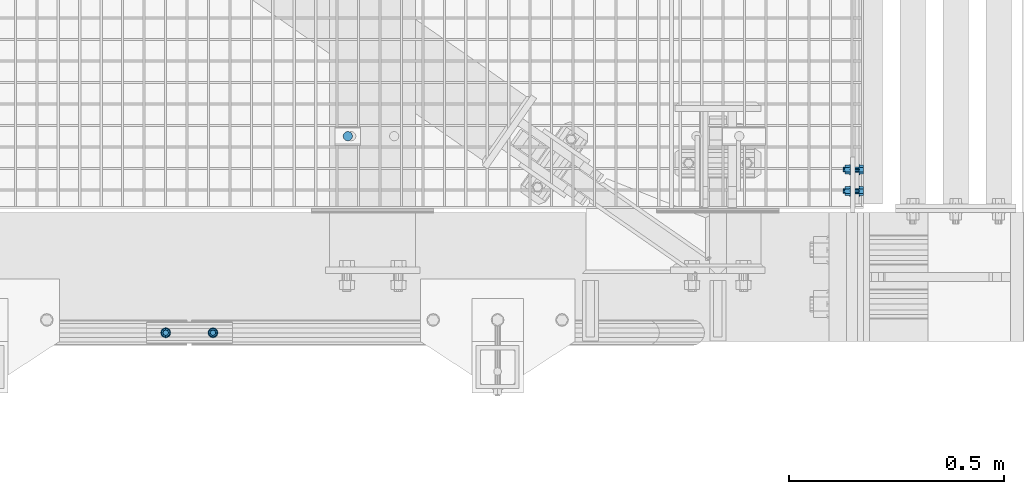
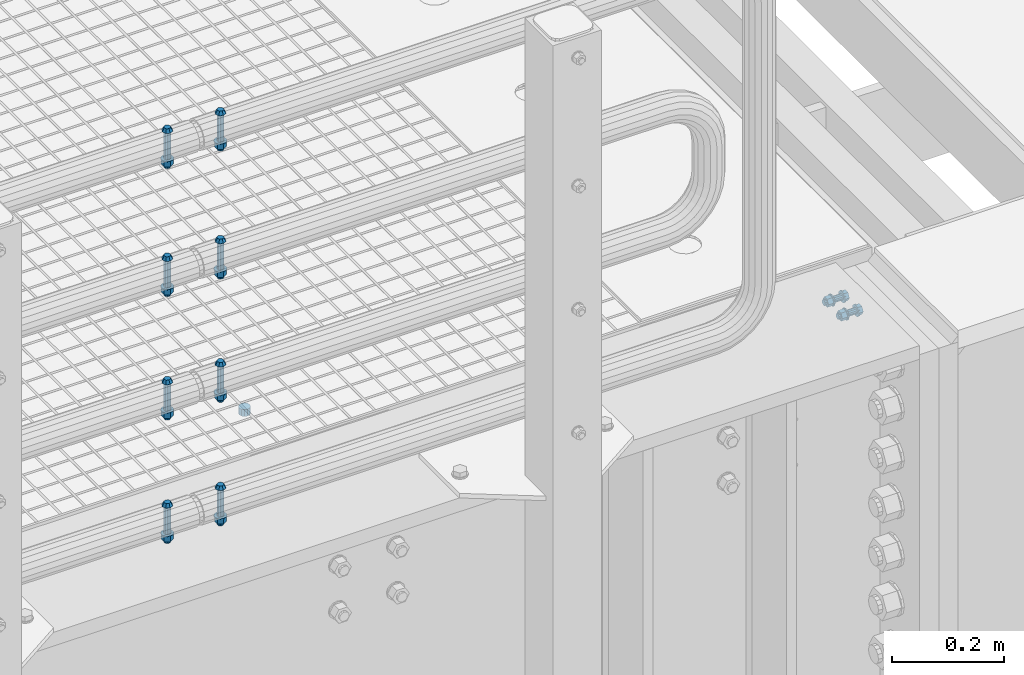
# One storey, part 103 of 1530: 10 mechanical fasteners.
"""IFC2X3 building model written with IfcOpenShell, lengths in millimetres."""

from ifc_helpers import new_model, si_unit, frame, origin_with_axes, place, context, subcontext, project, spatial, faceted_brep, source, transform, mapped, material, type_object, element, save


model = new_model("IFC2X3")

# Units and contexts
model_context = context("Model", 3, precision=1e-05, world=origin_with_axes())
body_context = subcontext(model_context, "Body", "Model", "MODEL_VIEW")
ifc_project = project(units=[si_unit("LENGTHUNIT", "METRE", prefix="MILLI"), si_unit("AREAUNIT", "SQUARE_METRE"), si_unit("VOLUMEUNIT", "CUBIC_METRE"), si_unit("MASSUNIT", "GRAM", prefix="KILO"), si_unit("TIMEUNIT", "SECOND"), si_unit("PLANEANGLEUNIT", "RADIAN"), si_unit("SOLIDANGLEUNIT", "STERADIAN"), si_unit("THERMODYNAMICTEMPERATUREUNIT", "DEGREE_CELSIUS"), si_unit("LUMINOUSINTENSITYUNIT", "LUMEN")], contexts=[model_context])

# Site, building, storey
site_placement = place(None, origin_with_axes())
site = spatial("IfcSite", under=ifc_project, at=site_placement, Name="Brattvåg", CompositionType="ELEMENT")
building_placement = place(site_placement, origin_with_axes())
building = spatial("IfcBuilding", under=site, at=building_placement, Name="Undefined", CompositionType="ELEMENT")
storey_placement = place(building_placement, origin_with_axes())
storey = spatial("IfcBuildingStorey", under=building, at=storey_placement, Name="Undefined", CompositionType="ELEMENT", Elevation=0.0)

# Mechanical fasteners
ifc_material = material(Name="8")
mechanical_fastener_type = type_object("IfcMechanicalFastenerType", Name="Bolt assembly")
shared_shape_1 = source(origin_with_axes(), body_context, "Body", "Brep", [
    faceted_brep([(10.3923048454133, -9.99999999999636, 0.0), (5.19615242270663, -9.99999999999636, 9.0), (-5.19615242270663, -9.99999999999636, 9.0), (-10.3923048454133, -9.99999999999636, 1.27269028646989e-15), (-5.19615242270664, -9.99999999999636, -9.0), (5.19615242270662, -9.99999999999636, -9.0), (5.19615242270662, -2.49999999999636, -9.0), (-5.19615242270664, -2.49999999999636, -9.0), (-10.3923048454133, -2.49999999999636, 1.27269028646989e-15), (-5.19615242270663, -2.49999999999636, 9.0), (5.19615242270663, -2.49999999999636, 9.0), (10.3923048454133, -2.49999999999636, 0.0), (6.0, -2.49999999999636, 0.0), (5.19615242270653, -2.49999999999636, 3.00000000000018), (2.99999999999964, -2.49999999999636, 5.19615242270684), (-6.21801588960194e-13, -2.49999999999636, 6.0), (-3.00000000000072, -2.49999999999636, 5.19615242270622), (-5.19615242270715, -2.49999999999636, 2.9999999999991), (-6.0, -2.49999999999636, -1.24360317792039e-12), (-5.19615242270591, -2.49999999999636, -3.00000000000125), (-2.99999999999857, -2.49999999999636, -5.19615242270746), (1.85874342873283e-12, -2.49999999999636, -6.0), (3.00000000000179, -2.49999999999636, -5.1961524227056), (5.19615242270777, -2.49999999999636, -2.99999999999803), (5.19615242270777, 37.5000000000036, -2.99999999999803), (3.00000000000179, 37.5000000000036, -5.1961524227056), (1.85874342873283e-12, 37.5000000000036, -6.0), (-2.99999999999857, 37.5000000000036, -5.19615242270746), (-5.19615242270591, 37.5000000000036, -3.00000000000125), (-6.0, 37.5000000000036, -1.24360317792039e-12), (-5.19615242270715, 37.5000000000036, 2.9999999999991), (-3.00000000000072, 37.5000000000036, 5.19615242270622), (-6.21801588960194e-13, 37.5000000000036, 6.0), (2.99999999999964, 37.5000000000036, 5.19615242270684), (5.19615242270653, 37.5000000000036, 3.00000000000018), (6.0, 37.5000000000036, 0.0), (12.0, -2.49999999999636, 0.0), (10.3923048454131, -2.49999999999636, 6.00000000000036), (5.99999999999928, -2.49999999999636, 10.3923048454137), (-1.24360317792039e-12, -2.49999999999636, 12.0), (-6.00000000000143, -2.49999999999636, 10.3923048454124), (-10.3923048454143, -2.49999999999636, 5.99999999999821), (-12.0, -2.49999999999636, -2.48720635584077e-12), (-10.3923048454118, -2.49999999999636, -6.00000000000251), (-5.99999999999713, -2.49999999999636, -10.3923048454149), (3.71748685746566e-12, -2.49999999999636, -12.0), (6.00000000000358, -2.49999999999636, -10.3923048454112), (10.3923048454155, -2.49999999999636, -5.99999999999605), (10.3923048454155, 3.63797880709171e-12, -5.99999999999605), (6.00000000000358, 3.63797880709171e-12, -10.3923048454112), (3.71748685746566e-12, 3.63797880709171e-12, -12.0), (-5.99999999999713, 3.63797880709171e-12, -10.3923048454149), (-10.3923048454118, 3.63797880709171e-12, -6.00000000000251), (-12.0, 3.63797880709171e-12, -2.48720635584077e-12), (-10.3923048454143, 3.63797880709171e-12, 5.99999999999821), (-6.00000000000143, 3.63797880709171e-12, 10.3923048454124), (-1.24360317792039e-12, 3.63797880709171e-12, 12.0), (5.99999999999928, 3.63797880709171e-12, 10.3923048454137), (10.3923048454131, 3.63797880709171e-12, 6.00000000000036), (12.0, 3.63797880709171e-12, 0.0), (12.0, 19.9943847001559, 0.0), (10.3923048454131, 19.9943847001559, 6.00000000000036), (5.99999999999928, 19.9943847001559, 10.3923048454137), (-1.24360317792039e-12, 19.9943847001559, 12.0), (-6.00000000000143, 19.9943847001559, 10.3923048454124), (-10.3923048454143, 19.9943847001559, 5.99999999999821), (-12.0, 19.9943847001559, -2.48720635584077e-12), (-10.3923048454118, 19.9943847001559, -6.00000000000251), (-5.99999999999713, 19.9943847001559, -10.3923048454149), (3.71748685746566e-12, 19.9943847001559, -12.0), (6.00000000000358, 19.9943847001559, -10.3923048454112), (10.3923048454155, 19.9943847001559, -5.99999999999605), (10.3923048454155, 22.4943847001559, -5.99999999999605), (6.00000000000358, 22.4943847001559, -10.3923048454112), (3.71748685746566e-12, 22.4943847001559, -12.0), (-5.99999999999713, 22.4943847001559, -10.3923048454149), (-10.3923048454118, 22.4943847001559, -6.00000000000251), (-12.0, 22.4943847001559, -2.48720635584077e-12), (-10.3923048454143, 22.4943847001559, 5.99999999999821), (-6.00000000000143, 22.4943847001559, 10.3923048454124), (-1.24360317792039e-12, 22.4943847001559, 12.0), (5.99999999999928, 22.4943847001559, 10.3923048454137), (10.3923048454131, 22.4943847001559, 6.00000000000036), (12.0, 22.4943847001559, 0.0), (10.3923048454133, 22.4943847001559, 0.0), (5.19615242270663, 22.4943847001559, 9.0), (-5.19615242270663, 22.4943847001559, 9.0), (-10.3923048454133, 22.4943847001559, 1.27269028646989e-15), (-5.19615242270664, 22.4943847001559, -9.0), (5.19615242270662, 22.4943847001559, -9.0), (5.19615242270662, 33.2943848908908, -9.0), (-5.19615242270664, 33.2943848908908, -9.0), (-10.3923048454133, 33.2943848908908, 1.27269028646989e-15), (-5.19615242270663, 33.2943848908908, 9.0), (5.19615242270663, 33.2943848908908, 9.0), (10.3923048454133, 33.2943848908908, 0.0)], [[[0, 1, 2, 3, 4, 5]], [[6, 7, 8, 9, 10, 11]], [[0, 11, 10, 1]], [[1, 10, 9, 2]], [[2, 9, 8, 3]], [[3, 8, 7, 4]], [[4, 7, 6, 5]], [[5, 6, 11, 0]], [[12, 13, 14, 15, 16, 17, 18, 19, 20, 21, 22, 23]], [[24, 25, 26, 27, 28, 29, 30, 31, 32, 33, 34, 35]], [[12, 35, 34, 13]], [[13, 34, 33, 14]], [[14, 33, 32, 15]], [[15, 32, 31, 16]], [[16, 31, 30, 17]], [[17, 30, 29, 18]], [[18, 29, 28, 19]], [[19, 28, 27, 20]], [[20, 27, 26, 21]], [[21, 26, 25, 22]], [[22, 25, 24, 23]], [[23, 24, 35, 12]], [[36, 37, 38, 39, 40, 41, 42, 43, 44, 45, 46, 47]], [[48, 49, 50, 51, 52, 53, 54, 55, 56, 57, 58, 59]], [[36, 59, 58, 37]], [[37, 58, 57, 38]], [[38, 57, 56, 39]], [[39, 56, 55, 40]], [[40, 55, 54, 41]], [[41, 54, 53, 42]], [[42, 53, 52, 43]], [[43, 52, 51, 44]], [[44, 51, 50, 45]], [[45, 50, 49, 46]], [[46, 49, 48, 47]], [[47, 48, 59, 36]], [[60, 61, 62, 63, 64, 65, 66, 67, 68, 69, 70, 71]], [[72, 73, 74, 75, 76, 77, 78, 79, 80, 81, 82, 83]], [[60, 83, 82, 61]], [[61, 82, 81, 62]], [[62, 81, 80, 63]], [[63, 80, 79, 64]], [[64, 79, 78, 65]], [[65, 78, 77, 66]], [[66, 77, 76, 67]], [[67, 76, 75, 68]], [[68, 75, 74, 69]], [[69, 74, 73, 70]], [[70, 73, 72, 71]], [[71, 72, 83, 60]], [[84, 85, 86, 87, 88, 89]], [[90, 91, 92, 93, 94, 95]], [[84, 95, 94, 85]], [[85, 94, 93, 86]], [[86, 93, 92, 87]], [[87, 92, 91, 88]], [[88, 91, 90, 89]], [[89, 90, 95, 84]]]),
    faceted_brep([(6.5, 0.100000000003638, 0.0), (5.62916512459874, 0.100000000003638, 3.25000000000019), (3.24999999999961, 0.100000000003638, 5.62916512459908), (-6.7361838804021e-13, 0.100000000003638, 6.5), (-3.25000000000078, 0.100000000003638, 5.6291651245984), (-5.62916512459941, 0.100000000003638, 3.24999999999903), (-6.5, 0.100000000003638, -1.34723677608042e-12), (-5.62916512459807, 0.100000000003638, -3.25000000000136), (-3.24999999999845, 0.100000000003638, -5.62916512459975), (2.01363871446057e-12, 0.100000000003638, -6.5), (3.25000000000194, 0.100000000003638, -5.62916512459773), (5.62916512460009, 0.100000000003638, -3.24999999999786), (5.62916512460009, 10.1000000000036, -3.24999999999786), (3.25000000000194, 10.1000000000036, -5.62916512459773), (2.01363871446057e-12, 10.1000000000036, -6.5), (-3.24999999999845, 10.1000000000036, -5.62916512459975), (-5.62916512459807, 10.1000000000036, -3.25000000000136), (-6.5, 10.1000000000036, -1.34723677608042e-12), (-5.62916512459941, 10.1000000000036, 3.24999999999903), (-3.25000000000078, 10.1000000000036, 5.6291651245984), (-6.7361838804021e-13, 10.1000000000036, 6.5), (3.24999999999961, 10.1000000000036, 5.62916512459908), (5.62916512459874, 10.1000000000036, 3.25000000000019), (6.5, 10.1000000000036, 0.0), (6.5, 9.89438470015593, 0.0), (5.62916512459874, 9.89438470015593, 3.25000000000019), (3.24999999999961, 9.89438470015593, 5.62916512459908), (-6.7361838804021e-13, 9.89438470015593, 6.5), (-3.25000000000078, 9.89438470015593, 5.6291651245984), (-5.62916512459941, 9.89438470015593, 3.24999999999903), (-6.5, 9.89438470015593, -1.34723677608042e-12), (-5.62916512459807, 9.89438470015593, -3.25000000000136), (-3.24999999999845, 9.89438470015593, -5.62916512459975), (2.01363871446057e-12, 9.89438470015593, -6.5), (3.25000000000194, 9.89438470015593, -5.62916512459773), (5.62916512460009, 9.89438470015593, -3.24999999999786), (5.62916512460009, 19.9943847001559, -3.24999999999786), (3.25000000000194, 19.9943847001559, -5.62916512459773), (2.01363871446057e-12, 19.9943847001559, -6.5), (-3.24999999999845, 19.9943847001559, -5.62916512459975), (-5.62916512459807, 19.9943847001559, -3.25000000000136), (-6.5, 19.9943847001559, -1.34723677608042e-12), (-5.62916512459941, 19.9943847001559, 3.24999999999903), (-3.25000000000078, 19.9943847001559, 5.6291651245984), (-6.7361838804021e-13, 19.9943847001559, 6.5), (3.24999999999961, 19.9943847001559, 5.62916512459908), (5.62916512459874, 19.9943847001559, 3.25000000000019), (6.5, 19.9943847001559, 0.0)], [[[0, 1, 2, 3, 4, 5, 6, 7, 8, 9, 10, 11]], [[12, 13, 14, 15, 16, 17, 18, 19, 20, 21, 22, 23]], [[0, 23, 22, 1]], [[1, 22, 21, 2]], [[2, 21, 20, 3]], [[3, 20, 19, 4]], [[4, 19, 18, 5]], [[5, 18, 17, 6]], [[6, 17, 16, 7]], [[7, 16, 15, 8]], [[8, 15, 14, 9]], [[9, 14, 13, 10]], [[10, 13, 12, 11]], [[11, 12, 23, 0]], [[24, 25, 26, 27, 28, 29, 30, 31, 32, 33, 34, 35]], [[36, 37, 38, 39, 40, 41, 42, 43, 44, 45, 46, 47]], [[24, 47, 46, 25]], [[25, 46, 45, 26]], [[26, 45, 44, 27]], [[27, 44, 43, 28]], [[28, 43, 42, 29]], [[29, 42, 41, 30]], [[30, 41, 40, 31]], [[31, 40, 39, 32]], [[32, 39, 38, 33]], [[33, 38, 37, 34]], [[34, 37, 36, 35]], [[35, 36, 47, 24]]]),
])
mechanical_fastener_1_placement = place(storey_placement, frame((16886.9983721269, 199.999904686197, -160.000094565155), z_axis=(0.0, 0.0, 1.0), x_axis=(0.0, 1.0, 0.0)))
element("IfcMechanicalFastener", 1, at=mechanical_fastener_1_placement, inside=storey, type_object=mechanical_fastener_type, material=ifc_material, Name="Bolt assembly", NominalDiameter=12.0, NominalLength=40.0, context=body_context, shape_type="MappedRepresentation", body=[
    mapped(shared_shape_1, transform((0.0, 0.0, 0.0))),
    mapped(shared_shape_1, transform((50.0, 0.0, 0.0))),
])
shared_shape_2 = source(origin_with_axes(), body_context, "Body", "Brep", [
    faceted_brep([(11.0, -4.99999999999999, 0.0), (9.52627944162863, -4.99999999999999, 5.50000000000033), (5.49999999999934, -4.99999999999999, 9.5262794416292), (-1.13996957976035e-12, -4.99999999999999, 11.0), (-5.50000000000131, -4.99999999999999, 9.52627944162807), (-9.52627944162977, -4.99999999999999, 5.49999999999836), (-11.0, -4.99999999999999, -2.27993915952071e-12), (-9.5262794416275, -4.99999999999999, -5.5000000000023), (-5.49999999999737, -4.99999999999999, -9.52627944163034), (3.40769628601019e-12, -4.99999999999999, -11.0), (5.50000000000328, -4.99999999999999, -9.52627944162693), (9.52627944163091, -4.99999999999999, -5.49999999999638), (9.52627944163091, 10.1, -5.49999999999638), (5.50000000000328, 10.1, -9.52627944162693), (3.40769628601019e-12, 10.1, -11.0), (-5.49999999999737, 10.1, -9.52627944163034), (-9.5262794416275, 10.1, -5.5000000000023), (-11.0, 10.1, -2.27993915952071e-12), (-9.52627944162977, 10.1, 5.49999999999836), (-5.50000000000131, 10.1, 9.52627944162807), (-1.13996957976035e-12, 10.1, 11.0), (5.49999999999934, 10.1, 9.5262794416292), (9.52627944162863, 10.1, 5.50000000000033), (11.0, 10.1, 0.0)], [[[0, 1, 2, 3, 4, 5, 6, 7, 8, 9, 10, 11]], [[12, 13, 14, 15, 16, 17, 18, 19, 20, 21, 22, 23]], [[0, 23, 22, 1]], [[1, 22, 21, 2]], [[2, 21, 20, 3]], [[3, 20, 19, 4]], [[4, 19, 18, 5]], [[5, 18, 17, 6]], [[6, 17, 16, 7]], [[7, 16, 15, 8]], [[8, 15, 14, 9]], [[9, 14, 13, 10]], [[10, 13, 12, 11]], [[11, 12, 23, 0]]]),
])
mechanical_fastener_2_placement = place(storey_placement, frame((15696.2016601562, 327.999641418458, -35.0), z_axis=(0.0, -1.0, 0.0), x_axis=(-1.0, 1.99999855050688e-09, 0.0)))
element("IfcMechanicalFastener", 2, at=mechanical_fastener_2_placement, inside=storey, type_object=mechanical_fastener_type, material=ifc_material, Name="Bolt assembly", NominalDiameter=20.0, NominalLength=15.0, context=body_context, shape_type="MappedRepresentation", body=[
    mapped(shared_shape_2, transform((0.0, 0.0, 0.0))),
])
shared_shape_3 = source(origin_with_axes(), body_context, "Body", "Brep", [
    faceted_brep([(6.49435320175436, -7.79994685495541, 0.0), (4.59220118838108, -7.79994685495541, 4.59220118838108), (3.97664443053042e-16, -7.79994685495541, 6.49435320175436), (-4.59220118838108, -7.79994685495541, 4.59220118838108), (-6.49435320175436, -7.79994685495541, 7.95328886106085e-16), (-4.59220118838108, -7.79994685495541, -4.59220118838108), (-1.19299332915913e-15, -7.79994685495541, -6.49435320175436), (4.59220118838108, -7.79994685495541, -4.59220118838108), (7.34846922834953, -0.299946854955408, -7.34846922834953), (-1.90903542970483e-15, -0.299946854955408, -10.3923048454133), (-7.34846922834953, -0.299946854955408, -7.34846922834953), (-10.3923048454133, -0.299946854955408, 1.27269028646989e-15), (-7.34846922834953, -0.299946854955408, 7.34846922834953), (6.36345143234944e-16, -0.299946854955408, 10.3923048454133), (7.34846922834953, -0.299946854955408, 7.34846922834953), (10.3923048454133, -0.299946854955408, 0.0), (6.0, -0.299946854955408, 0.0), (5.19615242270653, -0.299946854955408, 3.00000000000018), (2.99999999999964, -0.299946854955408, 5.19615242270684), (-6.21801588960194e-13, -0.299946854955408, 6.0), (-3.00000000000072, -0.299946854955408, 5.19615242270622), (-5.19615242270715, -0.299946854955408, 2.9999999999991), (-6.0, -0.299946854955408, -1.24360317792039e-12), (-5.19615242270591, -0.299946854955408, -3.00000000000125), (-2.99999999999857, -0.299946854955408, -5.19615242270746), (1.85874342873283e-12, -0.299946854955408, -6.0), (3.00000000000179, -0.299946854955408, -5.1961524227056), (5.19615242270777, -0.299946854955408, -2.99999999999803), (5.19615242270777, 79.7000531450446, -2.99999999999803), (3.00000000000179, 79.7000531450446, -5.1961524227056), (1.85874342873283e-12, 79.7000531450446, -6.0), (-2.99999999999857, 79.7000531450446, -5.19615242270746), (-5.19615242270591, 79.7000531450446, -3.00000000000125), (-6.0, 79.7000531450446, -1.24360317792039e-12), (-5.19615242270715, 79.7000531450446, 2.9999999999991), (-3.00000000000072, 79.7000531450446, 5.19615242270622), (-6.21801588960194e-13, 79.7000531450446, 6.0), (2.99999999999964, 79.7000531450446, 5.19615242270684), (5.19615242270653, 79.7000531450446, 3.00000000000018), (6.0, 79.7000531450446, 0.0), (12.0, 59.9989488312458, 0.0), (10.3923048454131, 59.9989488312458, 6.00000000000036), (5.99999999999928, 59.9989488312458, 10.3923048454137), (-1.24360317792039e-12, 59.9989488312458, 12.0), (-6.00000000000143, 59.9989488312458, 10.3923048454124), (-10.3923048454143, 59.9989488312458, 5.99999999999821), (-12.0, 59.9989488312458, -2.48720635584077e-12), (-10.3923048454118, 59.9989488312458, -6.00000000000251), (-5.99999999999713, 59.9989488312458, -10.3923048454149), (3.71748685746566e-12, 59.9989488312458, -12.0), (6.00000000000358, 59.9989488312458, -10.3923048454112), (10.3923048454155, 59.9989488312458, -5.99999999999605), (10.3923048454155, 62.4989488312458, -5.99999999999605), (6.00000000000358, 62.4989488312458, -10.3923048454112), (3.71748685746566e-12, 62.4989488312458, -12.0), (-5.99999999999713, 62.4989488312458, -10.3923048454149), (-10.3923048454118, 62.4989488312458, -6.00000000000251), (-12.0, 62.4989488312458, -2.48720635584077e-12), (-10.3923048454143, 62.4989488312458, 5.99999999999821), (-6.00000000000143, 62.4989488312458, 10.3923048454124), (-1.24360317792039e-12, 62.4989488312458, 12.0), (5.99999999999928, 62.4989488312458, 10.3923048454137), (10.3923048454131, 62.4989488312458, 6.00000000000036), (12.0, 62.4989488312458, 0.0), (10.9696551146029, 62.4989488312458, 0.0), (5.48482755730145, 62.4989488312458, 9.5), (-5.48482755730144, 62.4989488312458, 9.5), (-10.9696551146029, 62.4989488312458, 1.34339530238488e-15), (-5.48482755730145, 62.4989488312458, -9.5), (5.48482755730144, 62.4989488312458, -9.5), (5.48482755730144, 73.2989490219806, -9.5), (-5.48482755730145, 73.2989490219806, -9.5), (-10.9696551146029, 73.2989490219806, 1.34339530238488e-15), (-5.48482755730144, 73.2989490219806, 9.5), (5.48482755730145, 73.2989490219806, 9.5), (10.9696551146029, 73.2989490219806, 0.0)], [[[0, 1, 2, 3, 4, 5, 6, 7]], [[8, 9, 10, 11, 12, 13, 14, 15]], [[0, 15, 14, 1]], [[1, 14, 13, 2]], [[2, 13, 12, 3]], [[3, 12, 11, 4]], [[4, 11, 10, 5]], [[5, 10, 9, 6]], [[6, 9, 8, 7]], [[7, 8, 15, 0]], [[16, 17, 18, 19, 20, 21, 22, 23, 24, 25, 26, 27]], [[28, 29, 30, 31, 32, 33, 34, 35, 36, 37, 38, 39]], [[16, 39, 38, 17]], [[17, 38, 37, 18]], [[18, 37, 36, 19]], [[19, 36, 35, 20]], [[20, 35, 34, 21]], [[21, 34, 33, 22]], [[22, 33, 32, 23]], [[23, 32, 31, 24]], [[24, 31, 30, 25]], [[25, 30, 29, 26]], [[26, 29, 28, 27]], [[27, 28, 39, 16]], [[40, 41, 42, 43, 44, 45, 46, 47, 48, 49, 50, 51]], [[52, 53, 54, 55, 56, 57, 58, 59, 60, 61, 62, 63]], [[40, 63, 62, 41]], [[41, 62, 61, 42]], [[42, 61, 60, 43]], [[43, 60, 59, 44]], [[44, 59, 58, 45]], [[45, 58, 57, 46]], [[46, 57, 56, 47]], [[47, 56, 55, 48]], [[48, 55, 54, 49]], [[49, 54, 53, 50]], [[50, 53, 52, 51]], [[51, 52, 63, 40]], [[64, 65, 66, 67, 68, 69]], [[70, 71, 72, 73, 74, 75]], [[64, 75, 74, 65]], [[65, 74, 73, 66]], [[66, 73, 72, 67]], [[67, 72, 71, 68]], [[68, 71, 70, 69]], [[69, 70, 75, 64]]]),
    faceted_brep([(6.5, -0.199946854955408, 0.0), (5.62916512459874, -0.199946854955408, 3.25000000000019), (3.24999999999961, -0.199946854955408, 5.62916512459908), (-6.7361838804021e-13, -0.199946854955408, 6.5), (-3.25000000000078, -0.199946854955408, 5.6291651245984), (-5.62916512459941, -0.199946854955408, 3.24999999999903), (-6.5, -0.199946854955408, -1.34723677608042e-12), (-5.62916512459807, -0.199946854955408, -3.25000000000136), (-3.24999999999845, -0.199946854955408, -5.62916512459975), (2.01363871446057e-12, -0.199946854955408, -6.5), (3.25000000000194, -0.199946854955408, -5.62916512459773), (5.62916512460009, -0.199946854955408, -3.24999999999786), (5.62916512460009, 60.0989488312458, -3.24999999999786), (3.25000000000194, 60.0989488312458, -5.62916512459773), (2.01363871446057e-12, 60.0989488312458, -6.5), (-3.24999999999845, 60.0989488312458, -5.62916512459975), (-5.62916512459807, 60.0989488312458, -3.25000000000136), (-6.5, 60.0989488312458, -1.34723677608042e-12), (-5.62916512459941, 60.0989488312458, 3.24999999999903), (-3.25000000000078, 60.0989488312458, 5.6291651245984), (-6.7361838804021e-13, 60.0989488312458, 6.5), (3.24999999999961, 60.0989488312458, 5.62916512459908), (5.62916512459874, 60.0989488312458, 3.25000000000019), (6.5, 60.0989488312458, 0.0), (6.5, 4.25026510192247, 0.0), (5.62916512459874, 4.25026510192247, 3.25000000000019), (3.24999999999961, 4.25026510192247, 5.62916512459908), (-6.7361838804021e-13, 4.25026510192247, 6.5), (-3.25000000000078, 4.25026510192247, 5.6291651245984), (-5.62916512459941, 4.25026510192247, 3.24999999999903), (-6.5, 4.25026510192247, -1.34723677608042e-12), (-5.62916512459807, 4.25026510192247, -3.25000000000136), (-3.24999999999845, 4.25026510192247, -5.62916512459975), (2.01363871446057e-12, 4.25026510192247, -6.5), (3.25000000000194, 4.25026510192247, -5.62916512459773), (5.62916512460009, 4.25026510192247, -3.24999999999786), (5.62916512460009, 55.3491717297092, -3.24999999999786), (3.25000000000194, 55.3491717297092, -5.62916512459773), (2.01363871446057e-12, 55.3491717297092, -6.5), (-3.24999999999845, 55.3491717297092, -5.62916512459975), (-5.62916512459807, 55.3491717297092, -3.25000000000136), (-6.5, 55.3491717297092, -1.34723677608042e-12), (-5.62916512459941, 55.3491717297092, 3.24999999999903), (-3.25000000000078, 55.3491717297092, 5.6291651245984), (-6.7361838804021e-13, 55.3491717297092, 6.5), (3.24999999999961, 55.3491717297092, 5.62916512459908), (5.62916512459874, 55.3491717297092, 3.25000000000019), (6.5, 55.3491717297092, 0.0)], [[[0, 1, 2, 3, 4, 5, 6, 7, 8, 9, 10, 11]], [[12, 13, 14, 15, 16, 17, 18, 19, 20, 21, 22, 23]], [[0, 23, 22, 1]], [[1, 22, 21, 2]], [[2, 21, 20, 3]], [[3, 20, 19, 4]], [[4, 19, 18, 5]], [[5, 18, 17, 6]], [[6, 17, 16, 7]], [[7, 16, 15, 8]], [[8, 15, 14, 9]], [[9, 14, 13, 10]], [[10, 13, 12, 11]], [[11, 12, 23, 0]], [[24, 25, 26, 27, 28, 29, 30, 31, 32, 33, 34, 35]], [[36, 37, 38, 39, 40, 41, 42, 43, 44, 45, 46, 47]], [[24, 47, 46, 25]], [[25, 46, 45, 26]], [[26, 45, 44, 27]], [[27, 44, 43, 28]], [[28, 43, 42, 29]], [[29, 42, 41, 30]], [[30, 41, 40, 31]], [[31, 40, 39, 32]], [[32, 39, 38, 33]], [[33, 38, 37, 34]], [[34, 37, 36, 35]], [[35, 36, 47, 24]]]),
])
mechanical_fastener_3_placement = place(storey_placement, frame((15381.9998626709, -129.849880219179, 449.7000579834), z_axis=(-1.0, 1.99999855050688e-09, 0.0), x_axis=(0.0, 0.999999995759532, -9.2091999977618e-05)))
element("IfcMechanicalFastener", 3, at=mechanical_fastener_3_placement, inside=storey, type_object=mechanical_fastener_type, material=ifc_material, Name="Bolt assembly", NominalDiameter=12.0, NominalLength=80.0, context=body_context, shape_type="MappedRepresentation", body=[
    mapped(shared_shape_3, transform((0.0, 0.0, 0.0))),
])
shared_shape_4 = source(origin_with_axes(), body_context, "Body", "Brep", [
    faceted_brep([(6.49435320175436, -7.50000000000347, 0.0), (4.59220118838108, -7.50000000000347, 4.59220118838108), (3.97664443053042e-16, -7.50000000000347, 6.49435320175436), (-4.59220118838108, -7.50000000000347, 4.59220118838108), (-6.49435320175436, -7.50000000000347, 7.95328886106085e-16), (-4.59220118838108, -7.50000000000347, -4.59220118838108), (-1.19299332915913e-15, -7.50000000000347, -6.49435320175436), (4.59220118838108, -7.50000000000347, -4.59220118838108), (7.34846922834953, -3.46744855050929e-12, -7.34846922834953), (-1.90903542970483e-15, -3.46744855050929e-12, -10.3923048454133), (-7.34846922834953, -3.46744855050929e-12, -7.34846922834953), (-10.3923048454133, 3.46808519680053e-07, 1.27269028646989e-15), (-7.34846922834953, -3.46744855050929e-12, 7.34846922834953), (6.36345143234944e-16, -3.46744855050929e-12, 10.3923048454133), (7.34846922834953, -3.46744855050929e-12, 7.34846922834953), (10.3923048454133, 3.46808519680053e-07, 0.0), (6.0, 3.46808519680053e-07, 0.0), (5.19615242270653, 3.46808519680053e-07, 3.00000000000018), (2.99999999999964, 3.46808519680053e-07, 5.19615242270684), (-6.21801588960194e-13, 3.46808519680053e-07, 6.0), (-3.00000000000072, 3.46808519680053e-07, 5.19615242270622), (-5.19615242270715, 3.46808519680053e-07, 2.9999999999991), (-6.0, 3.46808519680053e-07, -1.24360317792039e-12), (-5.19615242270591, 3.46808519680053e-07, -3.00000000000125), (-2.99999999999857, 3.46808519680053e-07, -5.19615242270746), (1.85874342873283e-12, 3.46808519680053e-07, -6.0), (3.00000000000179, 3.46808519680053e-07, -5.1961524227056), (5.19615242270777, 3.46808519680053e-07, -2.99999999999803), (5.19615242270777, 79.9999999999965, -2.99999999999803), (3.00000000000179, 79.9999999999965, -5.1961524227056), (1.85874342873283e-12, 79.9999999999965, -6.0), (-2.99999999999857, 79.9999999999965, -5.19615242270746), (-5.19615242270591, 79.9999999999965, -3.00000000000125), (-6.0, 79.9999999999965, -1.24360317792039e-12), (-5.19615242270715, 79.9999999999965, 2.9999999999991), (-3.00000000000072, 79.9999999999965, 5.19615242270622), (-6.21801588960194e-13, 79.9999999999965, 6.0), (2.99999999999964, 79.9999999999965, 5.19615242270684), (5.19615242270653, 79.9999999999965, 3.00000000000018), (6.0, 79.9999999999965, 0.0), (12.0, 60.2988956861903, 0.0), (10.3923048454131, 60.2988956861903, 6.00000000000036), (5.99999999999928, 60.2988956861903, 10.3923048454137), (-1.24360317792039e-12, 60.2988956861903, 12.0), (-6.00000000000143, 60.2988956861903, 10.3923048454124), (-10.3923048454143, 60.2988956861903, 5.99999999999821), (-12.0, 60.2988956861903, -2.48720635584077e-12), (-10.3923048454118, 60.2988956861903, -6.00000000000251), (-5.99999999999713, 60.2988956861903, -10.3923048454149), (3.71748685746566e-12, 60.2988956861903, -12.0), (6.00000000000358, 60.2988956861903, -10.3923048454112), (10.3923048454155, 60.2988956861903, -5.99999999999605), (10.3923048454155, 62.7988956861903, -5.99999999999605), (6.00000000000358, 62.7988956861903, -10.3923048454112), (3.71748685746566e-12, 62.7988956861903, -12.0), (-5.99999999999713, 62.7988956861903, -10.3923048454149), (-10.3923048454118, 62.7988956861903, -6.00000000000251), (-12.0, 62.7988956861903, -2.48720635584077e-12), (-10.3923048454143, 62.7988956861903, 5.99999999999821), (-6.00000000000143, 62.7988956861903, 10.3923048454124), (-1.24360317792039e-12, 62.7988956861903, 12.0), (5.99999999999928, 62.7988956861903, 10.3923048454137), (10.3923048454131, 62.7988956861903, 6.00000000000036), (12.0, 62.7988956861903, 0.0), (10.9696551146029, 62.7988956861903, 0.0), (5.48482755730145, 62.7988956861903, 9.5), (-5.48482755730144, 62.7988956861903, 9.5), (-10.9696551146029, 62.7988956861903, 1.34339530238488e-15), (-5.48482755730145, 62.7988956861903, -9.5), (5.48482755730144, 62.7988956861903, -9.5), (5.48482755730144, 73.5988958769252, -9.5), (-5.48482755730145, 73.5988958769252, -9.5), (-10.9696551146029, 73.5988958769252, 1.34339530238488e-15), (-5.48482755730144, 73.5988958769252, 9.5), (5.48482755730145, 73.5988958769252, 9.5), (10.9696551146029, 73.5988958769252, 0.0)], [[[0, 1, 2, 3, 4, 5, 6, 7]], [[8, 9, 10, 11, 12, 13, 14, 15]], [[0, 15, 14, 1]], [[1, 14, 13, 2]], [[2, 13, 12, 3]], [[3, 12, 11, 4]], [[4, 11, 10, 5]], [[5, 10, 9, 6]], [[6, 9, 8, 7]], [[7, 8, 15, 0]], [[16, 17, 18, 19, 20, 21, 22, 23, 24, 25, 26, 27]], [[28, 29, 30, 31, 32, 33, 34, 35, 36, 37, 38, 39]], [[16, 39, 38, 17]], [[17, 38, 37, 18]], [[18, 37, 36, 19]], [[19, 36, 35, 20]], [[20, 35, 34, 21]], [[21, 34, 33, 22]], [[22, 33, 32, 23]], [[23, 32, 31, 24]], [[24, 31, 30, 25]], [[25, 30, 29, 26]], [[26, 29, 28, 27]], [[27, 28, 39, 16]], [[40, 41, 42, 43, 44, 45, 46, 47, 48, 49, 50, 51]], [[52, 53, 54, 55, 56, 57, 58, 59, 60, 61, 62, 63]], [[40, 63, 62, 41]], [[41, 62, 61, 42]], [[42, 61, 60, 43]], [[43, 60, 59, 44]], [[44, 59, 58, 45]], [[45, 58, 57, 46]], [[46, 57, 56, 47]], [[47, 56, 55, 48]], [[48, 55, 54, 49]], [[49, 54, 53, 50]], [[50, 53, 52, 51]], [[51, 52, 63, 40]], [[64, 65, 66, 67, 68, 69]], [[70, 71, 72, 73, 74, 75]], [[64, 75, 74, 65]], [[65, 74, 73, 66]], [[66, 73, 72, 67]], [[67, 72, 71, 68]], [[68, 71, 70, 69]], [[69, 70, 75, 64]]]),
    faceted_brep([(6.5, 0.100000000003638, 0.0), (5.62916512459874, 0.100000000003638, 3.25000000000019), (3.24999999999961, 0.100000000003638, 5.62916512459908), (-6.7361838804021e-13, 0.100000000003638, 6.5), (-3.25000000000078, 0.100000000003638, 5.6291651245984), (-5.62916512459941, 0.100000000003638, 3.24999999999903), (-6.5, 0.100000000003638, -1.34723677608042e-12), (-5.62916512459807, 0.100000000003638, -3.25000000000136), (-3.24999999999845, 0.100000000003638, -5.62916512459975), (2.01363871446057e-12, 0.100000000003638, -6.5), (3.25000000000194, 0.100000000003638, -5.62916512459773), (5.62916512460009, 0.100000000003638, -3.24999999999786), (5.62916512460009, 60.3988956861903, -3.24999999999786), (3.25000000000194, 60.3988956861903, -5.62916512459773), (2.01363871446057e-12, 60.3988956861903, -6.5), (-3.24999999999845, 60.3988956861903, -5.62916512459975), (-5.62916512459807, 60.3988956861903, -3.25000000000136), (-6.5, 60.3988956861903, -1.34723677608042e-12), (-5.62916512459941, 60.3988956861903, 3.24999999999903), (-3.25000000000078, 60.3988956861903, 5.6291651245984), (-6.7361838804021e-13, 60.3988956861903, 6.5), (3.24999999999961, 60.3988956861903, 5.62916512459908), (5.62916512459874, 60.3988956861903, 3.25000000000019), (6.5, 60.3988956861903, 0.0), (6.5, 4.25026510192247, 0.0), (5.62916512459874, 4.25026510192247, 3.25000000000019), (3.24999999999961, 4.25026510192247, 5.62916512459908), (-6.7361838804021e-13, 4.25026510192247, 6.5), (-3.25000000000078, 4.25026510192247, 5.6291651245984), (-5.62916512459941, 4.25026510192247, 3.24999999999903), (-6.5, 4.25026510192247, -1.34723677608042e-12), (-5.62916512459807, 4.25026510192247, -3.25000000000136), (-3.24999999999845, 4.25026510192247, -5.62916512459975), (2.01363871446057e-12, 4.25026510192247, -6.5), (3.25000000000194, 4.25026510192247, -5.62916512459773), (5.62916512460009, 4.25026510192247, -3.24999999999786), (5.62916512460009, 55.3491717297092, -3.24999999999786), (3.25000000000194, 55.3491717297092, -5.62916512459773), (2.01363871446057e-12, 55.3491717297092, -6.5), (-3.24999999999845, 55.3491717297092, -5.62916512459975), (-5.62916512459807, 55.3491717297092, -3.25000000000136), (-6.5, 55.3491717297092, -1.34723677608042e-12), (-5.62916512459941, 55.3491717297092, 3.24999999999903), (-3.25000000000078, 55.3491717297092, 5.6291651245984), (-6.7361838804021e-13, 55.3491717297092, 6.5), (3.24999999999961, 55.3491717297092, 5.62916512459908), (5.62916512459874, 55.3491717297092, 3.25000000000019), (6.5, 55.3491717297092, 0.0)], [[[0, 1, 2, 3, 4, 5, 6, 7, 8, 9, 10, 11]], [[12, 13, 14, 15, 16, 17, 18, 19, 20, 21, 22, 23]], [[0, 23, 22, 1]], [[1, 22, 21, 2]], [[2, 21, 20, 3]], [[3, 20, 19, 4]], [[4, 19, 18, 5]], [[5, 18, 17, 6]], [[6, 17, 16, 7]], [[7, 16, 15, 8]], [[8, 15, 14, 9]], [[9, 14, 13, 10]], [[10, 13, 12, 11]], [[11, 12, 23, 0]], [[24, 25, 26, 27, 28, 29, 30, 31, 32, 33, 34, 35]], [[36, 37, 38, 39, 40, 41, 42, 43, 44, 45, 46, 47]], [[24, 47, 46, 25]], [[25, 46, 45, 26]], [[26, 45, 44, 27]], [[27, 44, 43, 28]], [[28, 43, 42, 29]], [[29, 42, 41, 30]], [[30, 41, 40, 31]], [[31, 40, 39, 32]], [[32, 39, 38, 33]], [[33, 38, 37, 34]], [[34, 37, 36, 35]], [[35, 36, 47, 24]]]),
])
for number, where, z_axis, x_axis, name in (
    (4, (15272.0001373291, -129.849880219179, 179.7000579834), (-1.0, 1.99999855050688e-09, 0.0), (0.0, 0.999999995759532, -9.2091999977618e-05), "Bolt assembly"),
    (5, (15272.0001373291, -129.849880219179, 449.7000579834), (-1.0, 1.99999855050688e-09, 0.0), (0.0, 0.999999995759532, -9.2091999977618e-05), "Bolt assembly"),
    (6, (15272.0001373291, -129.849880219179, 719.7000579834), (-1.0, 1.99999855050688e-09, 0.0), (0.0, 0.999999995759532, -9.2091999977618e-05), "Bolt assembly"),
    (7, (15381.9998626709, -129.849880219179, 179.7000579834), (-1.0, 1.99999855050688e-09, 0.0), (0.0, 0.999999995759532, -9.2091999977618e-05), "Bolt assembly"),
    (8, (15381.9998626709, -129.849880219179, 999.7000579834), (-1.0, 1.99999855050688e-09, 0.0), (0.0, 0.999999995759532, -9.2091999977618e-05), "Bolt assembly"),
    (9, (15272.0001373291, -129.849880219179, 999.7000579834), (-1.0, 1.99999855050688e-09, 0.0), (0.0, 0.999999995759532, -9.2091999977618e-05), "Bolt assembly"),
    (10, (15381.9998626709, -129.849880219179, 719.7000579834), (-1.0, 1.99999855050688e-09, 0.0), (0.0, 0.999999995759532, -9.2091999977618e-05), "Bolt assembly"),
):
    element("IfcMechanicalFastener", number, at=place(storey_placement, frame(where, z_axis=z_axis, x_axis=x_axis)), inside=storey, type_object=mechanical_fastener_type, material=ifc_material, Name=name, NominalDiameter=12.0, NominalLength=80.0, context=body_context, shape_type="MappedRepresentation", body=[
        mapped(shared_shape_4, transform((0.0, 0.0, 0.0))),
    ])

save(model, "model.ifc")
